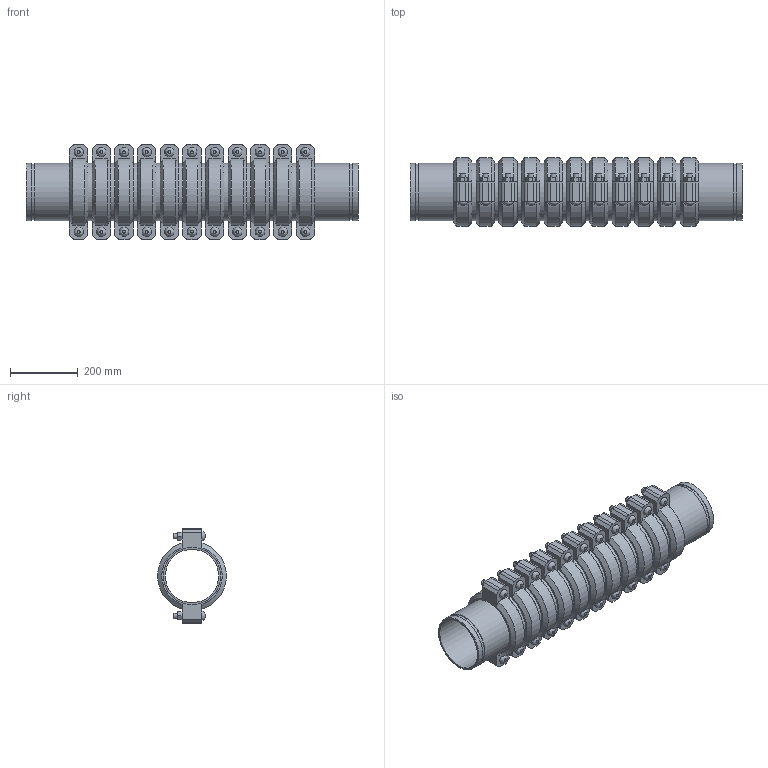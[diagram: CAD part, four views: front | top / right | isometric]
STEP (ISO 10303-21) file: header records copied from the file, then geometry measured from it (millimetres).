
FILE_DESCRIPTION(/* description */ ('VIC SS EXPANSION JOINT 11 COUPLINGS EXPANDED STYLE 155P (OGS) (POTABLE WATER) ','CAx-IF Rec.Pracs.---Representation and Presentation of Product Manufacturing Information (PMI)---4.0---2014-10-13'),/* implementation_level */ '2;1');
FILE_NAME(/* name */ 'C:\Users\kkamble\AppData\Roaming\Autodesk\ApplicationPlugins\Victaulic.Temp\A494\Victaulic_SS_Expansion Joint_Expanded_11 Couplings_Style 155P (OGS)-Potable Water_11 Coup_Expd_6 (150).stp',/* time_stamp */ '2021-07-16T16:46:25+05:00',/* author */ ('kkamble'),/* organization */ ('Victaulic'),/* preprocessor_version */ 'ST-DEVELOPER v17.2',/* originating_system */ 'Autodesk Inventor 2019',/* authorisation */ '');
FILE_SCHEMA (('AP242_MANAGED_MODEL_BASED_3D_ENGINEERING_MIM_LF { 1 0 10303 442 1 1 4 }'));
Length unit declared in the file: inch
Products named in the file (4): 155P-06.0; Nipple-06.0; Nipple-06.0_1; 075-06.0
Assembly tree (23 placements, depth 2):
  155P-06.0
    Nipple-06.0  x2
    Nipple-06.0_1  x10
    075-06.0  x11
Bounding box: 978.41 x 202.46 x 281.18 mm (x, y, z)
Volume: 10726709.1 mm3; surface area: 2327503.4 mm2
Topology: 23 solids, 45 shells, 771 faces, 1823 edges, 1278 vertices
Faces by surface type: plane 468, cylinder 237, cone 44, bspline 22
Full cylindrical faces by diameter (mm): 15.875 x44, 17.424 x22, 157.15 x12, 161.925 x11, 163.957 x24, 168.275 x58
Entity records: 2888 total; most frequent: CARTESIAN_POINT 507, DIRECTION 489, ORIENTED_EDGE 386, AXIS2_PLACEMENT_3D 198, EDGE_CURVE 193, VERTEX_POINT 138, EDGE_LOOP 107, LINE 93
